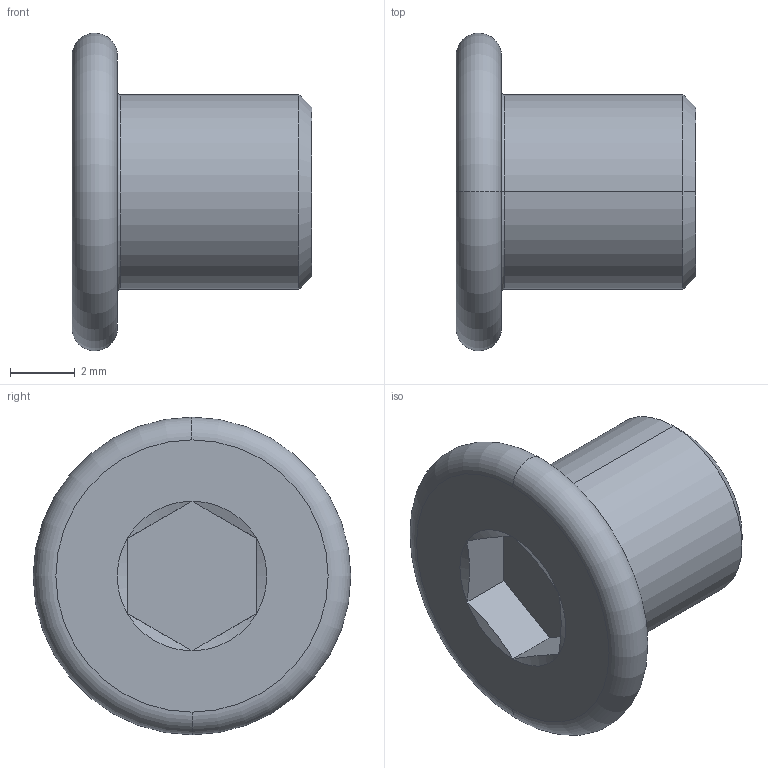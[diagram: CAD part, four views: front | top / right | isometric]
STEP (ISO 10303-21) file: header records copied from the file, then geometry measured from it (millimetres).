
FILE_DESCRIPTION (( 'STEP AP203' ), '1' );
FILE_NAME ('LGD-304M-M6x6.STEP', '2026-08-13T12:41:41', ( '' ), ( '' ), 'SwSTEP 2.0', 'SolidWorks 2020', '' );
FILE_SCHEMA (( 'CONFIG_CONTROL_DESIGN' ));
Length unit declared in the file: millimetre
Products named in the file (1): LGD-304M-M6x6
Bounding box: 7.4 x 9.8 x 9.8 mm (x, y, z)
Volume: 245.3 mm3; surface area: 304.1 mm2
Topology: 1 solids, 1 shells, 24 faces, 44 edges, 24 vertices
Faces by surface type: plane 10, cone 8, torus 4, cylinder 2
Entity records: 673 total; most frequent: CARTESIAN_POINT 119, DIRECTION 110, ORIENTED_EDGE 88, AXIS2_PLACEMENT_3D 47, EDGE_CURVE 44, EDGE_LOOP 26, VERTEX_POINT 24, FACE_OUTER_BOUND 24
